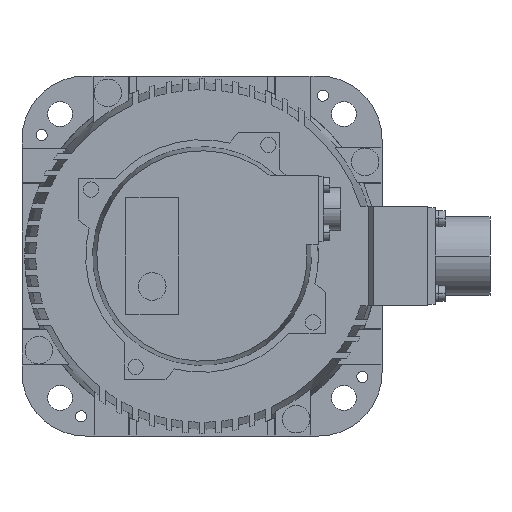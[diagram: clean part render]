
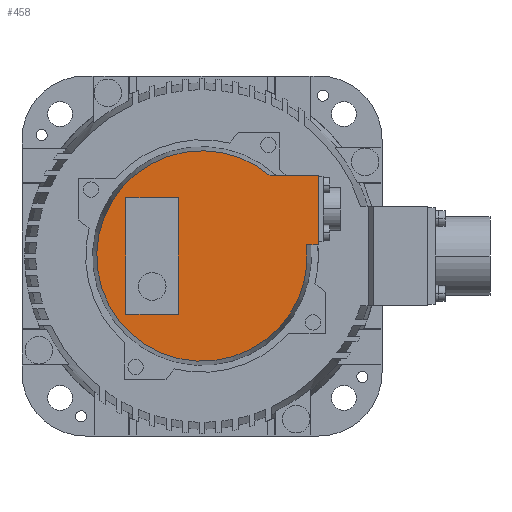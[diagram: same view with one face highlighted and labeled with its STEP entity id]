
A CAD part, left-side view. The second image highlights one B-rep face of the part: STEP entity #458.
In plain terms, the highlighted planar face has unit normal (-1, 0, 0).
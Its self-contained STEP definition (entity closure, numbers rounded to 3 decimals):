
#458=ADVANCED_FACE('',(#4272,#4273),#4271,.F.);
#4271=PLANE('',#9371);
#4272=FACE_OUTER_BOUND('',#9372,.T.);
#4273=FACE_BOUND('',#9373,.T.);
#9368=CARTESIAN_POINT('',(-151.,-52.891,71.254));
#9369=DIRECTION('',(1.,0.,0.));
#9370=DIRECTION('',(0.,0.,-1.));
#9371=AXIS2_PLACEMENT_3D('',#9368,#9369,#9370);
#9372=EDGE_LOOP('',(#13042,#13043,#13044,#13045));
#9373=EDGE_LOOP('',(#13046,#13047,#13048,#13049));
#13042=ORIENTED_EDGE('',*,*,#14788,.F.);
#13043=ORIENTED_EDGE('',*,*,#15955,.F.);
#13044=ORIENTED_EDGE('',*,*,#15956,.F.);
#13045=ORIENTED_EDGE('',*,*,#15947,.F.);
#13046=ORIENTED_EDGE('',*,*,#15957,.F.);
#13047=ORIENTED_EDGE('',*,*,#15958,.F.);
#13048=ORIENTED_EDGE('',*,*,#15959,.F.);
#13049=ORIENTED_EDGE('',*,*,#15960,.F.);
#14788=EDGE_CURVE('',#16739,#16740,#16741,.T.);
#15947=EDGE_CURVE('',#16740,#24534,#24535,.T.);
#15955=EDGE_CURVE('',#24580,#16739,#24587,.T.);
#15956=EDGE_CURVE('',#24534,#24580,#24593,.T.);
#15957=EDGE_CURVE('',#24599,#24600,#24601,.T.);
#15958=EDGE_CURVE('',#24607,#24599,#24608,.T.);
#15959=EDGE_CURVE('',#24614,#24607,#24615,.T.);
#15960=EDGE_CURVE('',#24600,#24614,#24621,.T.);
#16739=VERTEX_POINT('',#28739);
#16740=VERTEX_POINT('',#28740);
#16741=CIRCLE('',#28744,38.);
#24534=VERTEX_POINT('',#33501);
#24535=LINE('',#33502,#33503);
#24580=VERTEX_POINT('',#33527);
#24587=LINE('',#33531,#33532);
#24593=LINE('',#33534,#33535);
#24599=VERTEX_POINT('',#33537);
#24600=VERTEX_POINT('',#33538);
#24601=LINE('',#33539,#33540);
#24607=VERTEX_POINT('',#33542);
#24608=LINE('',#33543,#33544);
#24614=VERTEX_POINT('',#33546);
#24615=LINE('',#33547,#33548);
#24621=LINE('',#33550,#33551);
#28739=CARTESIAN_POINT('',(-151.,-37.789,4.));
#28740=CARTESIAN_POINT('',(-151.,-24.556,29.));
#28741=CARTESIAN_POINT('',(-151.,0.,0.));
#28742=DIRECTION('',(1.,0.,0.));
#28743=DIRECTION('',(0.,-0.994,0.105));
#28744=AXIS2_PLACEMENT_3D('',#28741,#28742,#28743);
#33501=CARTESIAN_POINT('',(-151.,-42.,29.));
#33502=CARTESIAN_POINT('',(-151.,-24.556,29.));
#33503=VECTOR('',#33504,17.444);
#33504=DIRECTION('',(0.,-1.,0.));
#33527=CARTESIAN_POINT('',(-151.,-42.,4.));
#33531=CARTESIAN_POINT('',(-151.,-42.,4.));
#33532=VECTOR('',#33533,4.211);
#33533=DIRECTION('',(0.,1.,0.));
#33534=CARTESIAN_POINT('',(-151.,-42.,29.));
#33535=VECTOR('',#33536,25.);
#33536=DIRECTION('',(0.,0.,-1.));
#33537=CARTESIAN_POINT('',(-151.,8.5,-21.));
#33538=CARTESIAN_POINT('',(-151.,8.5,21.));
#33539=CARTESIAN_POINT('',(-151.,8.5,-21.));
#33540=VECTOR('',#33541,42.);
#33541=DIRECTION('',(0.,0.,1.));
#33542=CARTESIAN_POINT('',(-151.,27.5,-21.));
#33543=CARTESIAN_POINT('',(-151.,27.5,-21.));
#33544=VECTOR('',#33545,19.);
#33545=DIRECTION('',(0.,-1.,0.));
#33546=CARTESIAN_POINT('',(-151.,27.5,21.));
#33547=CARTESIAN_POINT('',(-151.,27.5,21.));
#33548=VECTOR('',#33549,42.);
#33549=DIRECTION('',(0.,0.,-1.));
#33550=CARTESIAN_POINT('',(-151.,8.5,21.));
#33551=VECTOR('',#33552,19.);
#33552=DIRECTION('',(0.,1.,0.));
